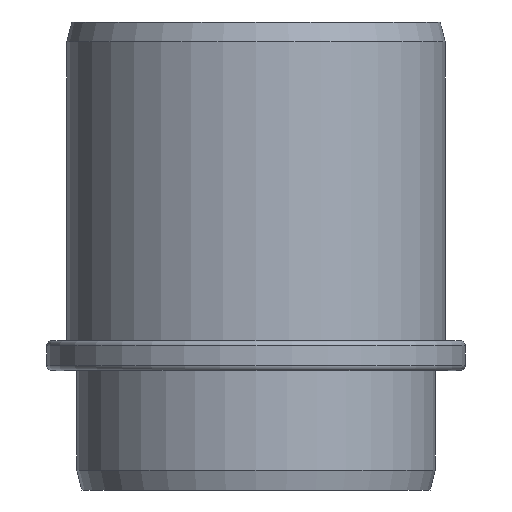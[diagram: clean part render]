
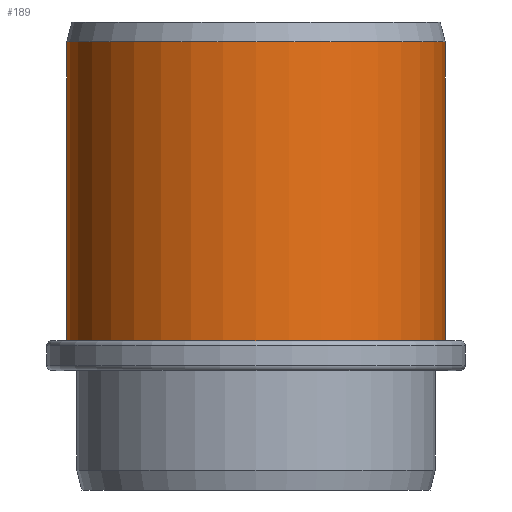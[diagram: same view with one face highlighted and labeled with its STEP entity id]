
A CAD part, front view. The second image highlights one B-rep face of the part: STEP entity #189.
In plain terms, the highlighted cylindrical face has radius 9.5 mm (diameter 19 mm), a full revolution.
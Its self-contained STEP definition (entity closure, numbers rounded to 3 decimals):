
#28=LINE('',#339,#36);
#36=VECTOR('',#279,9.5);
#43=CYLINDRICAL_SURFACE('',#227,9.5);
#53=FACE_OUTER_BOUND('',#69,.T.);
#69=EDGE_LOOP('',(#153,#154,#155,#156));
#83=CIRCLE('',#218,9.5);
#88=CIRCLE('',#226,9.5);
#98=VERTEX_POINT('',#323);
#102=VERTEX_POINT('',#335);
#114=EDGE_CURVE('',#98,#98,#83,.T.);
#120=EDGE_CURVE('',#102,#102,#88,.T.);
#121=EDGE_CURVE('',#102,#98,#28,.T.);
#153=ORIENTED_EDGE('',*,*,#120,.F.);
#154=ORIENTED_EDGE('',*,*,#121,.T.);
#155=ORIENTED_EDGE('',*,*,#114,.F.);
#156=ORIENTED_EDGE('',*,*,#121,.F.);
#189=ADVANCED_FACE('',(#53),#43,.T.);
#218=AXIS2_PLACEMENT_3D('',#324,#258,#259);
#226=AXIS2_PLACEMENT_3D('',#337,#275,#276);
#227=AXIS2_PLACEMENT_3D('',#338,#277,#278);
#258=DIRECTION('center_axis',(0.,0.,-1.));
#259=DIRECTION('ref_axis',(1.,0.,0.));
#275=DIRECTION('center_axis',(0.,0.,1.));
#276=DIRECTION('ref_axis',(1.,0.,0.));
#277=DIRECTION('center_axis',(0.,0.,1.));
#278=DIRECTION('ref_axis',(1.,0.,0.));
#279=DIRECTION('',(0.,0.,-1.));
#323=CARTESIAN_POINT('',(-68.989,-182.683,-11.5));
#324=CARTESIAN_POINT('Origin',(-59.489,-182.683,-11.5));
#335=CARTESIAN_POINT('',(-68.989,-182.683,3.5));
#337=CARTESIAN_POINT('Origin',(-59.489,-182.683,3.5));
#338=CARTESIAN_POINT('Origin',(-59.489,-182.683,-11.5));
#339=CARTESIAN_POINT('',(-68.989,-182.683,-11.5));
